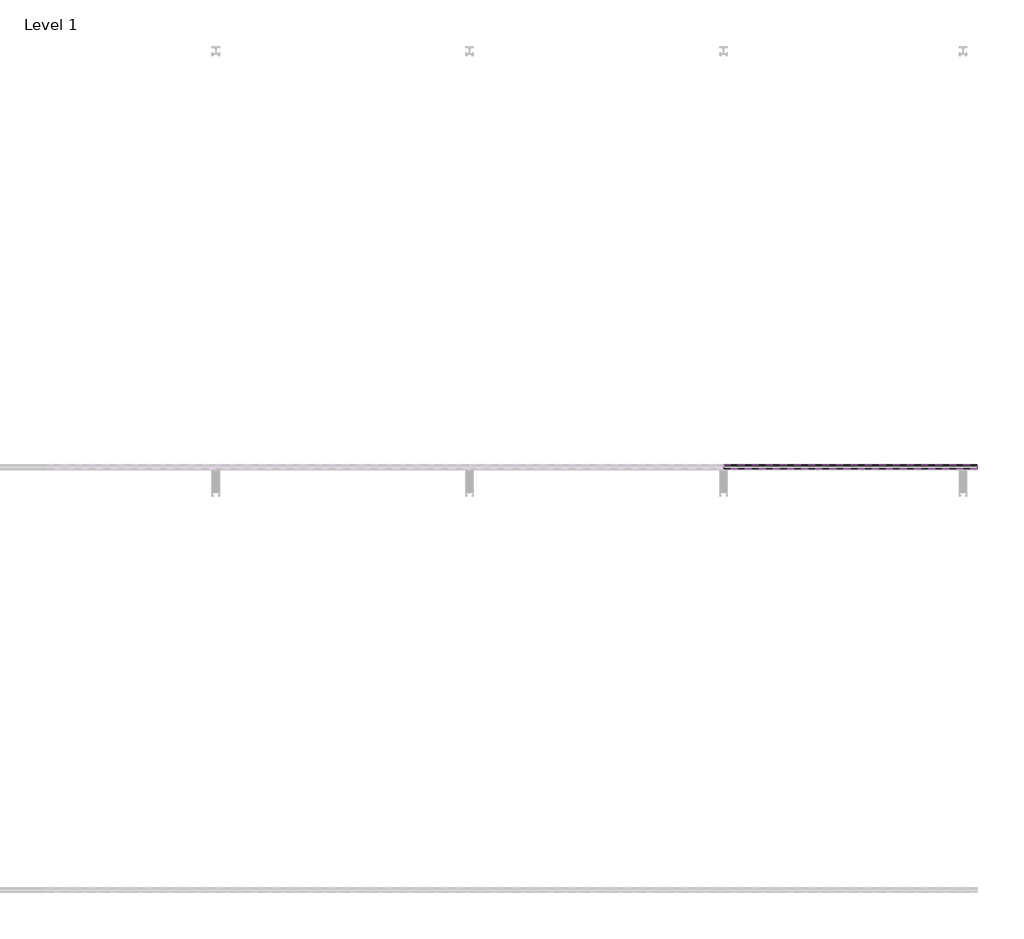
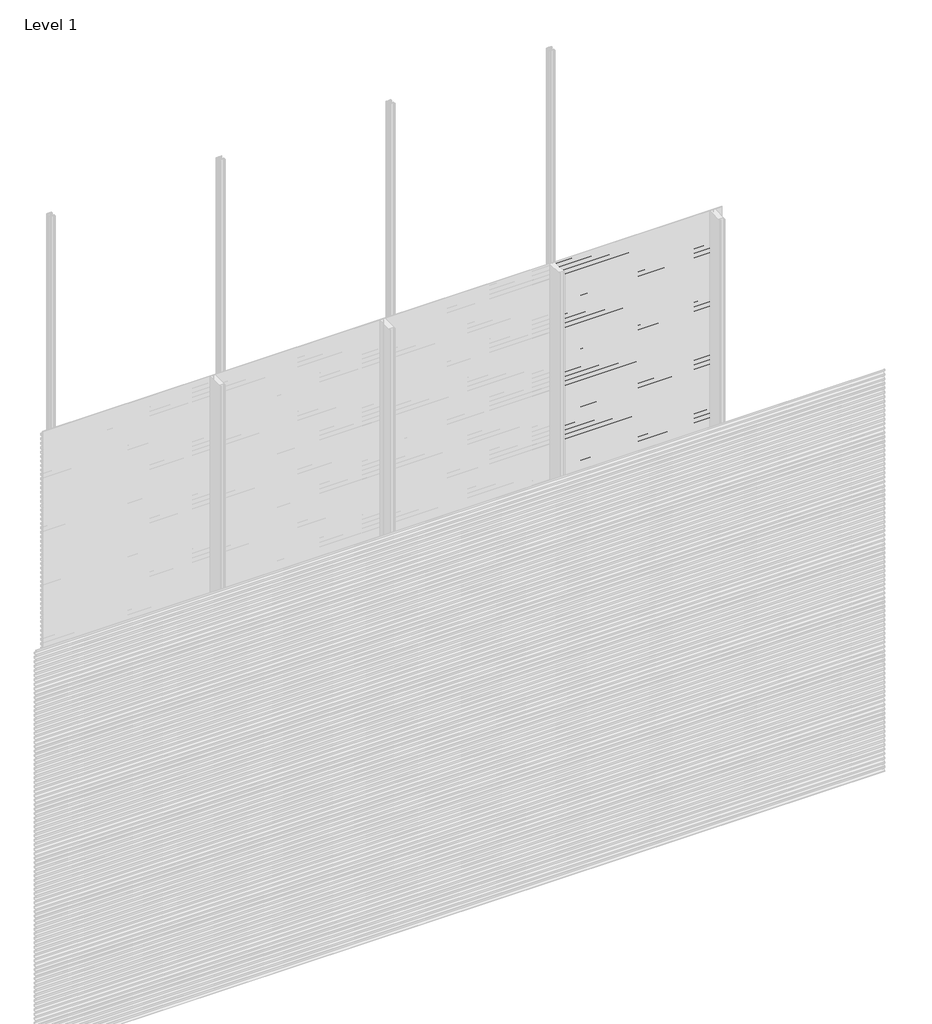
# One storey, part 17 of 77: 72 proxies.
"""IFC4 building model written with IfcOpenShell, lengths in millimetres."""

from ifc_helpers import new_model, si_unit, frame, origin, place, context, project, spatial, polyline, outline, extrude, element, save

model = new_model("IFC4")

# Units and contexts
model_context = context("Model", 3, world=origin())
ifc_project = project(units=[si_unit("LENGTHUNIT", "METRE", prefix="MILLI")], contexts=[model_context])

# Site, building, storey
site = spatial("IfcSite", under=ifc_project)
building = spatial("IfcBuilding", under=site)
storey = spatial("IfcBuildingStorey", under=building, Name="Level 1", Elevation=0.0)

# Proxies
placement = place(None, origin())
element("IfcBuildingElementProxy", 1, Name="Wall Sweeps", at=placement, inside=storey, context=model_context, shape_type="SweptSolid", body=[
    extrude(outline(polyline([(-47978.6, 408.4359887), (-47998.0, 419.6366691), (-47998.0, 432.9), (-47997.0, 432.9), (-47997.0, 420.2191057), (-47977.6, 409.0185105), (-47977.6, 395.4185105), (-47978.6, 396.9953129), (-47978.6, 402.8032062), (-47995.9773817, 394.7), (-47996.4, 395.6063078), (-47978.6, 403.9065841), (-47978.6, 408.4359887)])), frame((3600.0, 0.0, 0.0), z_axis=(1.0, 0.0, 0.0), x_axis=(0.0, 1.0, 0.0)), (0.0, 0.0, 1.0), 1200.0),
])
element("IfcBuildingElementProxy", 2, Name="Wall Sweeps", at=placement, inside=storey, context=model_context, shape_type="SweptSolid", body=[
    extrude(outline(polyline([(-47978.6, 375.1359887), (-47998.0, 386.3366691), (-47998.0, 399.6), (-47997.0, 399.6), (-47997.0, 386.9191057), (-47977.6, 375.7185105), (-47977.6, 362.1185105), (-47978.6, 363.6953129), (-47978.6, 369.5032062), (-47995.9773817, 361.4), (-47996.4, 362.3063078), (-47978.6, 370.6065841), (-47978.6, 375.1359887)])), frame((3600.0, 0.0, 0.0), z_axis=(1.0, 0.0, 0.0), x_axis=(0.0, 1.0, 0.0)), (0.0, 0.0, 1.0), 1200.0),
])
element("IfcBuildingElementProxy", 3, Name="Wall Sweeps", at=placement, inside=storey, context=model_context, shape_type="SweptSolid", body=[
    extrude(outline(polyline([(-47978.6, 341.8359887), (-47998.0, 353.0366691), (-47998.0, 366.3), (-47997.0, 366.3), (-47997.0, 353.6191057), (-47977.6, 342.4185105), (-47977.6, 328.8185105), (-47978.6, 330.3953129), (-47978.6, 336.2032062), (-47995.9773817, 328.1), (-47996.4, 329.0063078), (-47978.6, 337.3065841), (-47978.6, 341.8359887)])), frame((3600.0, 0.0, 0.0), z_axis=(1.0, 0.0, 0.0), x_axis=(0.0, 1.0, 0.0)), (0.0, 0.0, 1.0), 1200.0),
])
element("IfcBuildingElementProxy", 4, Name="Wall Sweeps", at=placement, inside=storey, context=model_context, shape_type="SweptSolid", body=[
    extrude(outline(polyline([(-47978.6, 308.5359887), (-47998.0, 319.7366691), (-47998.0, 333.0), (-47997.0, 333.0), (-47997.0, 320.3191057), (-47977.6, 309.1185105), (-47977.6, 295.5185105), (-47978.6, 297.0953129), (-47978.6, 302.9032062), (-47995.9773817, 294.8), (-47996.4, 295.7063078), (-47978.6, 304.0065841), (-47978.6, 308.5359887)])), frame((3600.0, 0.0, 0.0), z_axis=(1.0, 0.0, 0.0), x_axis=(0.0, 1.0, 0.0)), (0.0, 0.0, 1.0), 1200.0),
])
element("IfcBuildingElementProxy", 5, Name="Wall Sweeps", at=placement, inside=storey, context=model_context, shape_type="SweptSolid", body=[
    extrude(outline(polyline([(-47978.6, 275.2359887), (-47998.0, 286.4366691), (-47998.0, 299.7), (-47997.0, 299.7), (-47997.0, 287.0191057), (-47977.6, 275.8185105), (-47977.6, 262.2185105), (-47978.6, 263.7953129), (-47978.6, 269.6032062), (-47995.9773817, 261.5), (-47996.4, 262.4063078), (-47978.6, 270.7065841), (-47978.6, 275.2359887)])), frame((3600.0, 0.0, 0.0), z_axis=(1.0, 0.0, 0.0), x_axis=(0.0, 1.0, 0.0)), (0.0, 0.0, 1.0), 1200.0),
])
element("IfcBuildingElementProxy", 6, Name="Wall Sweeps", at=placement, inside=storey, context=model_context, shape_type="SweptSolid", body=[
    extrude(outline(polyline([(-47978.6, 241.9359887), (-47998.0, 253.1366691), (-47998.0, 266.4), (-47997.0, 266.4), (-47997.0, 253.7191057), (-47977.6, 242.5185105), (-47977.6, 228.9185105), (-47978.6, 230.4953129), (-47978.6, 236.3032062), (-47995.9773817, 228.2), (-47996.4, 229.1063078), (-47978.6, 237.4065841), (-47978.6, 241.9359887)])), frame((3600.0, 0.0, 0.0), z_axis=(1.0, 0.0, 0.0), x_axis=(0.0, 1.0, 0.0)), (0.0, 0.0, 1.0), 1200.0),
])
element("IfcBuildingElementProxy", 7, Name="Wall Sweeps", at=placement, inside=storey, context=model_context, shape_type="SweptSolid", body=[
    extrude(outline(polyline([(-47978.6, 208.6359887), (-47998.0, 219.8366691), (-47998.0, 233.1), (-47997.0, 233.1), (-47997.0, 220.4191057), (-47977.6, 209.2185105), (-47977.6, 195.6185105), (-47978.6, 197.1953129), (-47978.6, 203.0032062), (-47995.9773817, 194.9), (-47996.4, 195.8063078), (-47978.6, 204.1065841), (-47978.6, 208.6359887)])), frame((3600.0, 0.0, 0.0), z_axis=(1.0, 0.0, 0.0), x_axis=(0.0, 1.0, 0.0)), (0.0, 0.0, 1.0), 1200.0),
])
element("IfcBuildingElementProxy", 8, Name="Wall Sweeps", at=placement, inside=storey, context=model_context, shape_type="SweptSolid", body=[
    extrude(outline(polyline([(-47978.6, 175.3359887), (-47998.0, 186.5366691), (-47998.0, 199.8), (-47997.0, 199.8), (-47997.0, 187.1191057), (-47977.6, 175.9185105), (-47977.6, 162.3185105), (-47978.6, 163.8953129), (-47978.6, 169.7032062), (-47995.9773817, 161.6), (-47996.4, 162.5063078), (-47978.6, 170.8065841), (-47978.6, 175.3359887)])), frame((3600.0, 0.0, 0.0), z_axis=(1.0, 0.0, 0.0), x_axis=(0.0, 1.0, 0.0)), (0.0, 0.0, 1.0), 1200.0),
])
element("IfcBuildingElementProxy", 9, Name="Wall Sweeps", at=placement, inside=storey, context=model_context, shape_type="SweptSolid", body=[
    extrude(outline(polyline([(-47978.6, 142.0359887), (-47998.0, 153.2366691), (-47998.0, 166.5), (-47997.0, 166.5), (-47997.0, 153.8191057), (-47977.6, 142.6185105), (-47977.6, 129.0185105), (-47978.6, 130.5953129), (-47978.6, 136.4032062), (-47995.9773817, 128.3), (-47996.4, 129.2063078), (-47978.6, 137.5065841), (-47978.6, 142.0359887)])), frame((3600.0, 0.0, 0.0), z_axis=(1.0, 0.0, 0.0), x_axis=(0.0, 1.0, 0.0)), (0.0, 0.0, 1.0), 1200.0),
])
element("IfcBuildingElementProxy", 10, Name="Wall Sweeps", at=placement, inside=storey, context=model_context, shape_type="SweptSolid", body=[
    extrude(outline(polyline([(-47978.6, 108.7359887), (-47998.0, 119.9366691), (-47998.0, 133.2), (-47997.0, 133.2), (-47997.0, 120.5191057), (-47977.6, 109.3185105), (-47977.6, 95.7185105), (-47978.6, 97.2953129), (-47978.6, 103.1032062), (-47995.9773817, 95.0), (-47996.4, 95.9063078), (-47978.6, 104.2065841), (-47978.6, 108.7359887)])), frame((3600.0, 0.0, 0.0), z_axis=(1.0, 0.0, 0.0), x_axis=(0.0, 1.0, 0.0)), (0.0, 0.0, 1.0), 1200.0),
])
element("IfcBuildingElementProxy", 11, Name="Wall Sweeps", at=placement, inside=storey, context=model_context, shape_type="SweptSolid", body=[
    extrude(outline(polyline([(-47978.6, 75.4359887), (-47998.0, 86.6366691), (-47998.0, 99.9), (-47997.0, 99.9), (-47997.0, 87.2191057), (-47977.6, 76.0185105), (-47977.6, 62.4185105), (-47978.6, 63.9953129), (-47978.6, 69.8032062), (-47995.9773817, 61.7), (-47996.4, 62.6063078), (-47978.6, 70.9065841), (-47978.6, 75.4359887)])), frame((3600.0, 0.0, 0.0), z_axis=(1.0, 0.0, 0.0), x_axis=(0.0, 1.0, 0.0)), (0.0, 0.0, 1.0), 1200.0),
])
element("IfcBuildingElementProxy", 12, Name="Wall Sweeps", at=placement, inside=storey, context=model_context, shape_type="SweptSolid", body=[
    extrude(outline(polyline([(-47978.6, 42.1359887), (-47998.0, 53.3366691), (-47998.0, 66.6), (-47997.0, 66.6), (-47997.0, 53.9191057), (-47977.6, 42.7185105), (-47977.6, 29.1185105), (-47978.6, 30.6953129), (-47978.6, 36.5032062), (-47995.9773817, 28.4), (-47996.4, 29.3063078), (-47978.6, 37.6065841), (-47978.6, 42.1359887)])), frame((3600.0, 0.0, 0.0), z_axis=(1.0, 0.0, 0.0), x_axis=(0.0, 1.0, 0.0)), (0.0, 0.0, 1.0), 1200.0),
])
element("IfcBuildingElementProxy", 13, Name="Wall Sweeps", at=placement, inside=storey, context=model_context, shape_type="SweptSolid", body=[
    extrude(outline(polyline([(-47978.6, 8.8359887), (-47998.0, 20.0366691), (-47998.0, 33.3), (-47997.0, 33.3), (-47997.0, 20.6191057), (-47977.6, 9.4185105), (-47977.6, -4.1814895), (-47978.6, -2.6046871), (-47978.6, 3.2032062), (-47995.9773817, -4.9), (-47996.4, -3.9936922), (-47978.6, 4.3065841), (-47978.6, 8.8359887)])), frame((3600.0, 0.0, 0.0), z_axis=(1.0, 0.0, 0.0), x_axis=(0.0, 1.0, 0.0)), (0.0, 0.0, 1.0), 1200.0),
])
element("IfcBuildingElementProxy", 14, Name="Wall Sweeps", at=placement, inside=storey, context=model_context, shape_type="SweptSolid", body=[
    extrude(outline(polyline([(-47978.6, 2972.5359887), (-47998.0, 2983.7366691), (-47998.0, 2997.0), (-47997.0, 2997.0), (-47997.0, 2984.3191057), (-47977.6, 2973.1185105), (-47977.6, 2959.5185105), (-47978.6, 2961.0953129), (-47978.6, 2966.9032062), (-47995.9773817, 2958.8), (-47996.4, 2959.7063078), (-47978.6, 2968.0065841), (-47978.6, 2972.5359887)])), frame((4800.0, 0.0, 0.0), z_axis=(1.0, 0.0, 0.0), x_axis=(0.0, 1.0, 0.0)), (0.0, 0.0, 1.0), 1200.0),
])
element("IfcBuildingElementProxy", 15, Name="Wall Sweeps", at=placement, inside=storey, context=model_context, shape_type="SweptSolid", body=[
    extrude(outline(polyline([(-47978.6, 2939.2359887), (-47998.0, 2950.4366691), (-47998.0, 2963.7), (-47997.0, 2963.7), (-47997.0, 2951.0191057), (-47977.6, 2939.8185105), (-47977.6, 2926.2185105), (-47978.6, 2927.7953129), (-47978.6, 2933.6032062), (-47995.9773817, 2925.5), (-47996.4, 2926.4063078), (-47978.6, 2934.7065841), (-47978.6, 2939.2359887)])), frame((4800.0, 0.0, 0.0), z_axis=(1.0, 0.0, 0.0), x_axis=(0.0, 1.0, 0.0)), (0.0, 0.0, 1.0), 1200.0),
])
element("IfcBuildingElementProxy", 16, Name="Wall Sweeps", at=placement, inside=storey, context=model_context, shape_type="SweptSolid", body=[
    extrude(outline(polyline([(-47978.6, 2905.9359887), (-47998.0, 2917.1366691), (-47998.0, 2930.4), (-47997.0, 2930.4), (-47997.0, 2917.7191057), (-47977.6, 2906.5185105), (-47977.6, 2892.9185105), (-47978.6, 2894.4953129), (-47978.6, 2900.3032062), (-47995.9773817, 2892.2), (-47996.4, 2893.1063078), (-47978.6, 2901.4065841), (-47978.6, 2905.9359887)])), frame((4800.0, 0.0, 0.0), z_axis=(1.0, 0.0, 0.0), x_axis=(0.0, 1.0, 0.0)), (0.0, 0.0, 1.0), 1200.0),
])
element("IfcBuildingElementProxy", 17, Name="Wall Sweeps", at=placement, inside=storey, context=model_context, shape_type="SweptSolid", body=[
    extrude(outline(polyline([(-47978.6, 2872.6359887), (-47998.0, 2883.8366691), (-47998.0, 2897.1), (-47997.0, 2897.1), (-47997.0, 2884.4191057), (-47977.6, 2873.2185105), (-47977.6, 2859.6185105), (-47978.6, 2861.1953129), (-47978.6, 2867.0032062), (-47995.9773817, 2858.9), (-47996.4, 2859.8063078), (-47978.6, 2868.1065841), (-47978.6, 2872.6359887)])), frame((4800.0, 0.0, 0.0), z_axis=(1.0, 0.0, 0.0), x_axis=(0.0, 1.0, 0.0)), (0.0, 0.0, 1.0), 1200.0),
])
element("IfcBuildingElementProxy", 18, Name="Wall Sweeps", at=placement, inside=storey, context=model_context, shape_type="SweptSolid", body=[
    extrude(outline(polyline([(-47978.6, 2839.3359887), (-47998.0, 2850.5366691), (-47998.0, 2863.8), (-47997.0, 2863.8), (-47997.0, 2851.1191057), (-47977.6, 2839.9185105), (-47977.6, 2826.3185105), (-47978.6, 2827.8953129), (-47978.6, 2833.7032062), (-47995.9773817, 2825.6), (-47996.4, 2826.5063078), (-47978.6, 2834.8065841), (-47978.6, 2839.3359887)])), frame((4800.0, 0.0, 0.0), z_axis=(1.0, 0.0, 0.0), x_axis=(0.0, 1.0, 0.0)), (0.0, 0.0, 1.0), 1200.0),
])
element("IfcBuildingElementProxy", 19, Name="Wall Sweeps", at=placement, inside=storey, context=model_context, shape_type="SweptSolid", body=[
    extrude(outline(polyline([(-47978.6, 2806.0359887), (-47998.0, 2817.2366691), (-47998.0, 2830.5), (-47997.0, 2830.5), (-47997.0, 2817.8191057), (-47977.6, 2806.6185105), (-47977.6, 2793.0185105), (-47978.6, 2794.5953129), (-47978.6, 2800.4032062), (-47995.9773817, 2792.3), (-47996.4, 2793.2063078), (-47978.6, 2801.5065841), (-47978.6, 2806.0359887)])), frame((4800.0, 0.0, 0.0), z_axis=(1.0, 0.0, 0.0), x_axis=(0.0, 1.0, 0.0)), (0.0, 0.0, 1.0), 1200.0),
])
element("IfcBuildingElementProxy", 20, Name="Wall Sweeps", at=placement, inside=storey, context=model_context, shape_type="SweptSolid", body=[
    extrude(outline(polyline([(-47978.6, 2772.7359887), (-47998.0, 2783.9366691), (-47998.0, 2797.2), (-47997.0, 2797.2), (-47997.0, 2784.5191057), (-47977.6, 2773.3185105), (-47977.6, 2759.7185105), (-47978.6, 2761.2953129), (-47978.6, 2767.1032062), (-47995.9773817, 2759.0), (-47996.4, 2759.9063078), (-47978.6, 2768.2065841), (-47978.6, 2772.7359887)])), frame((4800.0, 0.0, 0.0), z_axis=(1.0, 0.0, 0.0), x_axis=(0.0, 1.0, 0.0)), (0.0, 0.0, 1.0), 1200.0),
])
element("IfcBuildingElementProxy", 21, Name="Wall Sweeps", at=placement, inside=storey, context=model_context, shape_type="SweptSolid", body=[
    extrude(outline(polyline([(-47978.6, 2739.4359887), (-47998.0, 2750.6366691), (-47998.0, 2763.9), (-47997.0, 2763.9), (-47997.0, 2751.2191057), (-47977.6, 2740.0185105), (-47977.6, 2726.4185105), (-47978.6, 2727.9953129), (-47978.6, 2733.8032062), (-47995.9773817, 2725.7), (-47996.4, 2726.6063078), (-47978.6, 2734.9065841), (-47978.6, 2739.4359887)])), frame((4800.0, 0.0, 0.0), z_axis=(1.0, 0.0, 0.0), x_axis=(0.0, 1.0, 0.0)), (0.0, 0.0, 1.0), 1200.0),
])
element("IfcBuildingElementProxy", 22, Name="Wall Sweeps", at=placement, inside=storey, context=model_context, shape_type="SweptSolid", body=[
    extrude(outline(polyline([(-47978.6, 2706.1359887), (-47998.0, 2717.3366691), (-47998.0, 2730.6), (-47997.0, 2730.6), (-47997.0, 2717.9191057), (-47977.6, 2706.7185105), (-47977.6, 2693.1185105), (-47978.6, 2694.6953129), (-47978.6, 2700.5032062), (-47995.9773817, 2692.4), (-47996.4, 2693.3063078), (-47978.6, 2701.6065841), (-47978.6, 2706.1359887)])), frame((4800.0, 0.0, 0.0), z_axis=(1.0, 0.0, 0.0), x_axis=(0.0, 1.0, 0.0)), (0.0, 0.0, 1.0), 1200.0),
])
element("IfcBuildingElementProxy", 23, Name="Wall Sweeps", at=placement, inside=storey, context=model_context, shape_type="SweptSolid", body=[
    extrude(outline(polyline([(-47978.6, 2672.8359887), (-47998.0, 2684.0366691), (-47998.0, 2697.3), (-47997.0, 2697.3), (-47997.0, 2684.6191057), (-47977.6, 2673.4185105), (-47977.6, 2659.8185105), (-47978.6, 2661.3953129), (-47978.6, 2667.2032062), (-47995.9773817, 2659.1), (-47996.4, 2660.0063078), (-47978.6, 2668.3065841), (-47978.6, 2672.8359887)])), frame((4800.0, 0.0, 0.0), z_axis=(1.0, 0.0, 0.0), x_axis=(0.0, 1.0, 0.0)), (0.0, 0.0, 1.0), 1200.0),
])
element("IfcBuildingElementProxy", 24, Name="Wall Sweeps", at=placement, inside=storey, context=model_context, shape_type="SweptSolid", body=[
    extrude(outline(polyline([(-47978.6, 2639.5359887), (-47998.0, 2650.7366691), (-47998.0, 2664.0), (-47997.0, 2664.0), (-47997.0, 2651.3191057), (-47977.6, 2640.1185105), (-47977.6, 2626.5185105), (-47978.6, 2628.0953129), (-47978.6, 2633.9032062), (-47995.9773817, 2625.8), (-47996.4, 2626.7063078), (-47978.6, 2635.0065841), (-47978.6, 2639.5359887)])), frame((4800.0, 0.0, 0.0), z_axis=(1.0, 0.0, 0.0), x_axis=(0.0, 1.0, 0.0)), (0.0, 0.0, 1.0), 1200.0),
])
element("IfcBuildingElementProxy", 25, Name="Wall Sweeps", at=placement, inside=storey, context=model_context, shape_type="SweptSolid", body=[
    extrude(outline(polyline([(-47978.6, 2606.2359887), (-47998.0, 2617.4366691), (-47998.0, 2630.7), (-47997.0, 2630.7), (-47997.0, 2618.0191057), (-47977.6, 2606.8185105), (-47977.6, 2593.2185105), (-47978.6, 2594.7953129), (-47978.6, 2600.6032062), (-47995.9773817, 2592.5), (-47996.4, 2593.4063078), (-47978.6, 2601.7065841), (-47978.6, 2606.2359887)])), frame((4800.0, 0.0, 0.0), z_axis=(1.0, 0.0, 0.0), x_axis=(0.0, 1.0, 0.0)), (0.0, 0.0, 1.0), 1200.0),
])
element("IfcBuildingElementProxy", 26, Name="Wall Sweeps", at=placement, inside=storey, context=model_context, shape_type="SweptSolid", body=[
    extrude(outline(polyline([(-47978.6, 2572.9359887), (-47998.0, 2584.1366691), (-47998.0, 2597.4), (-47997.0, 2597.4), (-47997.0, 2584.7191057), (-47977.6, 2573.5185105), (-47977.6, 2559.9185105), (-47978.6, 2561.4953129), (-47978.6, 2567.3032062), (-47995.9773817, 2559.2), (-47996.4, 2560.1063078), (-47978.6, 2568.4065841), (-47978.6, 2572.9359887)])), frame((4800.0, 0.0, 0.0), z_axis=(1.0, 0.0, 0.0), x_axis=(0.0, 1.0, 0.0)), (0.0, 0.0, 1.0), 1200.0),
])
element("IfcBuildingElementProxy", 27, Name="Wall Sweeps", at=placement, inside=storey, context=model_context, shape_type="SweptSolid", body=[
    extrude(outline(polyline([(-47978.6, 2539.6359887), (-47998.0, 2550.8366691), (-47998.0, 2564.1), (-47997.0, 2564.1), (-47997.0, 2551.4191057), (-47977.6, 2540.2185105), (-47977.6, 2526.6185105), (-47978.6, 2528.1953129), (-47978.6, 2534.0032062), (-47995.9773817, 2525.9), (-47996.4, 2526.8063078), (-47978.6, 2535.1065841), (-47978.6, 2539.6359887)])), frame((4800.0, 0.0, 0.0), z_axis=(1.0, 0.0, 0.0), x_axis=(0.0, 1.0, 0.0)), (0.0, 0.0, 1.0), 1200.0),
])
element("IfcBuildingElementProxy", 28, Name="Wall Sweeps", at=placement, inside=storey, context=model_context, shape_type="SweptSolid", body=[
    extrude(outline(polyline([(-47978.6, 2506.3359887), (-47998.0, 2517.5366691), (-47998.0, 2530.8), (-47997.0, 2530.8), (-47997.0, 2518.1191057), (-47977.6, 2506.9185105), (-47977.6, 2493.3185105), (-47978.6, 2494.8953129), (-47978.6, 2500.7032062), (-47995.9773817, 2492.6), (-47996.4, 2493.5063078), (-47978.6, 2501.8065841), (-47978.6, 2506.3359887)])), frame((4800.0, 0.0, 0.0), z_axis=(1.0, 0.0, 0.0), x_axis=(0.0, 1.0, 0.0)), (0.0, 0.0, 1.0), 1200.0),
])
element("IfcBuildingElementProxy", 29, Name="Wall Sweeps", at=placement, inside=storey, context=model_context, shape_type="SweptSolid", body=[
    extrude(outline(polyline([(-47978.6, 2473.0359887), (-47998.0, 2484.2366691), (-47998.0, 2497.5), (-47997.0, 2497.5), (-47997.0, 2484.8191057), (-47977.6, 2473.6185105), (-47977.6, 2460.0185105), (-47978.6, 2461.5953129), (-47978.6, 2467.4032062), (-47995.9773817, 2459.3), (-47996.4, 2460.2063078), (-47978.6, 2468.5065841), (-47978.6, 2473.0359887)])), frame((4800.0, 0.0, 0.0), z_axis=(1.0, 0.0, 0.0), x_axis=(0.0, 1.0, 0.0)), (0.0, 0.0, 1.0), 1200.0),
])
element("IfcBuildingElementProxy", 30, Name="Wall Sweeps", at=placement, inside=storey, context=model_context, shape_type="SweptSolid", body=[
    extrude(outline(polyline([(-47978.6, 2439.7359887), (-47998.0, 2450.9366691), (-47998.0, 2464.2), (-47997.0, 2464.2), (-47997.0, 2451.5191057), (-47977.6, 2440.3185105), (-47977.6, 2426.7185105), (-47978.6, 2428.2953129), (-47978.6, 2434.1032062), (-47995.9773817, 2426.0), (-47996.4, 2426.9063078), (-47978.6, 2435.2065841), (-47978.6, 2439.7359887)])), frame((4800.0, 0.0, 0.0), z_axis=(1.0, 0.0, 0.0), x_axis=(0.0, 1.0, 0.0)), (0.0, 0.0, 1.0), 1200.0),
])
element("IfcBuildingElementProxy", 31, Name="Wall Sweeps", at=placement, inside=storey, context=model_context, shape_type="SweptSolid", body=[
    extrude(outline(polyline([(-47978.6, 2406.4359887), (-47998.0, 2417.6366691), (-47998.0, 2430.9), (-47997.0, 2430.9), (-47997.0, 2418.2191057), (-47977.6, 2407.0185105), (-47977.6, 2393.4185105), (-47978.6, 2394.9953129), (-47978.6, 2400.8032062), (-47995.9773817, 2392.7), (-47996.4, 2393.6063078), (-47978.6, 2401.9065841), (-47978.6, 2406.4359887)])), frame((4800.0, 0.0, 0.0), z_axis=(1.0, 0.0, 0.0), x_axis=(0.0, 1.0, 0.0)), (0.0, 0.0, 1.0), 1200.0),
])
element("IfcBuildingElementProxy", 32, Name="Wall Sweeps", at=placement, inside=storey, context=model_context, shape_type="SweptSolid", body=[
    extrude(outline(polyline([(-47978.6, 2373.1359887), (-47998.0, 2384.3366691), (-47998.0, 2397.6), (-47997.0, 2397.6), (-47997.0, 2384.9191057), (-47977.6, 2373.7185105), (-47977.6, 2360.1185105), (-47978.6, 2361.6953129), (-47978.6, 2367.5032062), (-47995.9773817, 2359.4), (-47996.4, 2360.3063078), (-47978.6, 2368.6065841), (-47978.6, 2373.1359887)])), frame((4800.0, 0.0, 0.0), z_axis=(1.0, 0.0, 0.0), x_axis=(0.0, 1.0, 0.0)), (0.0, 0.0, 1.0), 1200.0),
])
element("IfcBuildingElementProxy", 33, Name="Wall Sweeps", at=placement, inside=storey, context=model_context, shape_type="SweptSolid", body=[
    extrude(outline(polyline([(-47978.6, 2339.8359887), (-47998.0, 2351.0366691), (-47998.0, 2364.3), (-47997.0, 2364.3), (-47997.0, 2351.6191057), (-47977.6, 2340.4185105), (-47977.6, 2326.8185105), (-47978.6, 2328.3953129), (-47978.6, 2334.2032062), (-47995.9773817, 2326.1), (-47996.4, 2327.0063078), (-47978.6, 2335.3065841), (-47978.6, 2339.8359887)])), frame((4800.0, 0.0, 0.0), z_axis=(1.0, 0.0, 0.0), x_axis=(0.0, 1.0, 0.0)), (0.0, 0.0, 1.0), 1200.0),
])
element("IfcBuildingElementProxy", 34, Name="Wall Sweeps", at=placement, inside=storey, context=model_context, shape_type="SweptSolid", body=[
    extrude(outline(polyline([(-47978.6, 2306.5359887), (-47998.0, 2317.7366691), (-47998.0, 2331.0), (-47997.0, 2331.0), (-47997.0, 2318.3191057), (-47977.6, 2307.1185105), (-47977.6, 2293.5185105), (-47978.6, 2295.0953129), (-47978.6, 2300.9032062), (-47995.9773817, 2292.8), (-47996.4, 2293.7063078), (-47978.6, 2302.0065841), (-47978.6, 2306.5359887)])), frame((4800.0, 0.0, 0.0), z_axis=(1.0, 0.0, 0.0), x_axis=(0.0, 1.0, 0.0)), (0.0, 0.0, 1.0), 1200.0),
])
element("IfcBuildingElementProxy", 35, Name="Wall Sweeps", at=placement, inside=storey, context=model_context, shape_type="SweptSolid", body=[
    extrude(outline(polyline([(-47978.6, 2273.2359887), (-47998.0, 2284.4366691), (-47998.0, 2297.7), (-47997.0, 2297.7), (-47997.0, 2285.0191057), (-47977.6, 2273.8185105), (-47977.6, 2260.2185105), (-47978.6, 2261.7953129), (-47978.6, 2267.6032062), (-47995.9773817, 2259.5), (-47996.4, 2260.4063078), (-47978.6, 2268.7065841), (-47978.6, 2273.2359887)])), frame((4800.0, 0.0, 0.0), z_axis=(1.0, 0.0, 0.0), x_axis=(0.0, 1.0, 0.0)), (0.0, 0.0, 1.0), 1200.0),
])
element("IfcBuildingElementProxy", 36, Name="Wall Sweeps", at=placement, inside=storey, context=model_context, shape_type="SweptSolid", body=[
    extrude(outline(polyline([(-47978.6, 2239.9359887), (-47998.0, 2251.1366691), (-47998.0, 2264.4), (-47997.0, 2264.4), (-47997.0, 2251.7191057), (-47977.6, 2240.5185105), (-47977.6, 2226.9185105), (-47978.6, 2228.4953129), (-47978.6, 2234.3032062), (-47995.9773817, 2226.2), (-47996.4, 2227.1063078), (-47978.6, 2235.4065841), (-47978.6, 2239.9359887)])), frame((4800.0, 0.0, 0.0), z_axis=(1.0, 0.0, 0.0), x_axis=(0.0, 1.0, 0.0)), (0.0, 0.0, 1.0), 1200.0),
])
element("IfcBuildingElementProxy", 37, Name="Wall Sweeps", at=placement, inside=storey, context=model_context, shape_type="SweptSolid", body=[
    extrude(outline(polyline([(-47978.6, 2206.6359887), (-47998.0, 2217.8366691), (-47998.0, 2231.1), (-47997.0, 2231.1), (-47997.0, 2218.4191057), (-47977.6, 2207.2185105), (-47977.6, 2193.6185105), (-47978.6, 2195.1953129), (-47978.6, 2201.0032062), (-47995.9773817, 2192.9), (-47996.4, 2193.8063078), (-47978.6, 2202.1065841), (-47978.6, 2206.6359887)])), frame((4800.0, 0.0, 0.0), z_axis=(1.0, 0.0, 0.0), x_axis=(0.0, 1.0, 0.0)), (0.0, 0.0, 1.0), 1200.0),
])
element("IfcBuildingElementProxy", 38, Name="Wall Sweeps", at=placement, inside=storey, context=model_context, shape_type="SweptSolid", body=[
    extrude(outline(polyline([(-47978.6, 2173.3359887), (-47998.0, 2184.5366691), (-47998.0, 2197.8), (-47997.0, 2197.8), (-47997.0, 2185.1191057), (-47977.6, 2173.9185105), (-47977.6, 2160.3185105), (-47978.6, 2161.8953129), (-47978.6, 2167.7032062), (-47995.9773817, 2159.6), (-47996.4, 2160.5063078), (-47978.6, 2168.8065841), (-47978.6, 2173.3359887)])), frame((4800.0, 0.0, 0.0), z_axis=(1.0, 0.0, 0.0), x_axis=(0.0, 1.0, 0.0)), (0.0, 0.0, 1.0), 1200.0),
])
element("IfcBuildingElementProxy", 39, Name="Wall Sweeps", at=placement, inside=storey, context=model_context, shape_type="SweptSolid", body=[
    extrude(outline(polyline([(-47978.6, 2140.0359887), (-47998.0, 2151.2366691), (-47998.0, 2164.5), (-47997.0, 2164.5), (-47997.0, 2151.8191057), (-47977.6, 2140.6185105), (-47977.6, 2127.0185105), (-47978.6, 2128.5953129), (-47978.6, 2134.4032062), (-47995.9773817, 2126.3), (-47996.4, 2127.2063078), (-47978.6, 2135.5065841), (-47978.6, 2140.0359887)])), frame((4800.0, 0.0, 0.0), z_axis=(1.0, 0.0, 0.0), x_axis=(0.0, 1.0, 0.0)), (0.0, 0.0, 1.0), 1200.0),
])
element("IfcBuildingElementProxy", 40, Name="Wall Sweeps", at=placement, inside=storey, context=model_context, shape_type="SweptSolid", body=[
    extrude(outline(polyline([(-47978.6, 2106.7359887), (-47998.0, 2117.9366691), (-47998.0, 2131.2), (-47997.0, 2131.2), (-47997.0, 2118.5191057), (-47977.6, 2107.3185105), (-47977.6, 2093.7185105), (-47978.6, 2095.2953129), (-47978.6, 2101.1032062), (-47995.9773817, 2093.0), (-47996.4, 2093.9063078), (-47978.6, 2102.2065841), (-47978.6, 2106.7359887)])), frame((4800.0, 0.0, 0.0), z_axis=(1.0, 0.0, 0.0), x_axis=(0.0, 1.0, 0.0)), (0.0, 0.0, 1.0), 1200.0),
])
element("IfcBuildingElementProxy", 41, Name="Wall Sweeps", at=placement, inside=storey, context=model_context, shape_type="SweptSolid", body=[
    extrude(outline(polyline([(-47978.6, 2073.4359887), (-47998.0, 2084.6366691), (-47998.0, 2097.9), (-47997.0, 2097.9), (-47997.0, 2085.2191057), (-47977.6, 2074.0185105), (-47977.6, 2060.4185105), (-47978.6, 2061.9953129), (-47978.6, 2067.8032062), (-47995.9773817, 2059.7), (-47996.4, 2060.6063078), (-47978.6, 2068.9065841), (-47978.6, 2073.4359887)])), frame((4800.0, 0.0, 0.0), z_axis=(1.0, 0.0, 0.0), x_axis=(0.0, 1.0, 0.0)), (0.0, 0.0, 1.0), 1200.0),
])
element("IfcBuildingElementProxy", 42, Name="Wall Sweeps", at=placement, inside=storey, context=model_context, shape_type="SweptSolid", body=[
    extrude(outline(polyline([(-47978.6, 2040.1359887), (-47998.0, 2051.3366691), (-47998.0, 2064.6), (-47997.0, 2064.6), (-47997.0, 2051.9191057), (-47977.6, 2040.7185105), (-47977.6, 2027.1185105), (-47978.6, 2028.6953129), (-47978.6, 2034.5032062), (-47995.9773817, 2026.4), (-47996.4, 2027.3063078), (-47978.6, 2035.6065841), (-47978.6, 2040.1359887)])), frame((4800.0, 0.0, 0.0), z_axis=(1.0, 0.0, 0.0), x_axis=(0.0, 1.0, 0.0)), (0.0, 0.0, 1.0), 1200.0),
])
element("IfcBuildingElementProxy", 43, Name="Wall Sweeps", at=placement, inside=storey, context=model_context, shape_type="SweptSolid", body=[
    extrude(outline(polyline([(-47978.6, 2006.8359887), (-47998.0, 2018.0366691), (-47998.0, 2031.3), (-47997.0, 2031.3), (-47997.0, 2018.6191057), (-47977.6, 2007.4185105), (-47977.6, 1993.8185105), (-47978.6, 1995.3953129), (-47978.6, 2001.2032062), (-47995.9773817, 1993.1), (-47996.4, 1994.0063078), (-47978.6, 2002.3065841), (-47978.6, 2006.8359887)])), frame((4800.0, 0.0, 0.0), z_axis=(1.0, 0.0, 0.0), x_axis=(0.0, 1.0, 0.0)), (0.0, 0.0, 1.0), 1200.0),
])
element("IfcBuildingElementProxy", 44, Name="Wall Sweeps", at=placement, inside=storey, context=model_context, shape_type="SweptSolid", body=[
    extrude(outline(polyline([(-47978.6, 1973.5359887), (-47998.0, 1984.7366691), (-47998.0, 1998.0), (-47997.0, 1998.0), (-47997.0, 1985.3191057), (-47977.6, 1974.1185105), (-47977.6, 1960.5185105), (-47978.6, 1962.0953129), (-47978.6, 1967.9032062), (-47995.9773817, 1959.8), (-47996.4, 1960.7063078), (-47978.6, 1969.0065841), (-47978.6, 1973.5359887)])), frame((4800.0, 0.0, 0.0), z_axis=(1.0, 0.0, 0.0), x_axis=(0.0, 1.0, 0.0)), (0.0, 0.0, 1.0), 1200.0),
])
element("IfcBuildingElementProxy", 45, Name="Wall Sweeps", at=placement, inside=storey, context=model_context, shape_type="SweptSolid", body=[
    extrude(outline(polyline([(-47978.6, 1940.2359887), (-47998.0, 1951.4366691), (-47998.0, 1964.7), (-47997.0, 1964.7), (-47997.0, 1952.0191057), (-47977.6, 1940.8185105), (-47977.6, 1927.2185105), (-47978.6, 1928.7953129), (-47978.6, 1934.6032062), (-47995.9773817, 1926.5), (-47996.4, 1927.4063078), (-47978.6, 1935.7065841), (-47978.6, 1940.2359887)])), frame((4800.0, 0.0, 0.0), z_axis=(1.0, 0.0, 0.0), x_axis=(0.0, 1.0, 0.0)), (0.0, 0.0, 1.0), 1200.0),
])
element("IfcBuildingElementProxy", 46, Name="Wall Sweeps", at=placement, inside=storey, context=model_context, shape_type="SweptSolid", body=[
    extrude(outline(polyline([(-47978.6, 1906.9359887), (-47998.0, 1918.1366691), (-47998.0, 1931.4), (-47997.0, 1931.4), (-47997.0, 1918.7191057), (-47977.6, 1907.5185105), (-47977.6, 1893.9185105), (-47978.6, 1895.4953129), (-47978.6, 1901.3032062), (-47995.9773817, 1893.2), (-47996.4, 1894.1063078), (-47978.6, 1902.4065841), (-47978.6, 1906.9359887)])), frame((4800.0, 0.0, 0.0), z_axis=(1.0, 0.0, 0.0), x_axis=(0.0, 1.0, 0.0)), (0.0, 0.0, 1.0), 1200.0),
])
element("IfcBuildingElementProxy", 47, Name="Wall Sweeps", at=placement, inside=storey, context=model_context, shape_type="SweptSolid", body=[
    extrude(outline(polyline([(-47978.6, 1873.6359887), (-47998.0, 1884.8366691), (-47998.0, 1898.1), (-47997.0, 1898.1), (-47997.0, 1885.4191057), (-47977.6, 1874.2185105), (-47977.6, 1860.6185105), (-47978.6, 1862.1953129), (-47978.6, 1868.0032062), (-47995.9773817, 1859.9), (-47996.4, 1860.8063078), (-47978.6, 1869.1065841), (-47978.6, 1873.6359887)])), frame((4800.0, 0.0, 0.0), z_axis=(1.0, 0.0, 0.0), x_axis=(0.0, 1.0, 0.0)), (0.0, 0.0, 1.0), 1200.0),
])
element("IfcBuildingElementProxy", 48, Name="Wall Sweeps", at=placement, inside=storey, context=model_context, shape_type="SweptSolid", body=[
    extrude(outline(polyline([(-47978.6, 1840.3359887), (-47998.0, 1851.5366691), (-47998.0, 1864.8), (-47997.0, 1864.8), (-47997.0, 1852.1191057), (-47977.6, 1840.9185105), (-47977.6, 1827.3185105), (-47978.6, 1828.8953129), (-47978.6, 1834.7032062), (-47995.9773817, 1826.6), (-47996.4, 1827.5063078), (-47978.6, 1835.8065841), (-47978.6, 1840.3359887)])), frame((4800.0, 0.0, 0.0), z_axis=(1.0, 0.0, 0.0), x_axis=(0.0, 1.0, 0.0)), (0.0, 0.0, 1.0), 1200.0),
])
element("IfcBuildingElementProxy", 49, Name="Wall Sweeps", at=placement, inside=storey, context=model_context, shape_type="SweptSolid", body=[
    extrude(outline(polyline([(-47978.6, 1807.0359887), (-47998.0, 1818.2366691), (-47998.0, 1831.5), (-47997.0, 1831.5), (-47997.0, 1818.8191057), (-47977.6, 1807.6185105), (-47977.6, 1794.0185105), (-47978.6, 1795.5953129), (-47978.6, 1801.4032062), (-47995.9773817, 1793.3), (-47996.4, 1794.2063078), (-47978.6, 1802.5065841), (-47978.6, 1807.0359887)])), frame((4800.0, 0.0, 0.0), z_axis=(1.0, 0.0, 0.0), x_axis=(0.0, 1.0, 0.0)), (0.0, 0.0, 1.0), 1200.0),
])
element("IfcBuildingElementProxy", 50, Name="Wall Sweeps", at=placement, inside=storey, context=model_context, shape_type="SweptSolid", body=[
    extrude(outline(polyline([(-47978.6, 1773.7359887), (-47998.0, 1784.9366691), (-47998.0, 1798.2), (-47997.0, 1798.2), (-47997.0, 1785.5191057), (-47977.6, 1774.3185105), (-47977.6, 1760.7185105), (-47978.6, 1762.2953129), (-47978.6, 1768.1032062), (-47995.9773817, 1760.0), (-47996.4, 1760.9063078), (-47978.6, 1769.2065841), (-47978.6, 1773.7359887)])), frame((4800.0, 0.0, 0.0), z_axis=(1.0, 0.0, 0.0), x_axis=(0.0, 1.0, 0.0)), (0.0, 0.0, 1.0), 1200.0),
])
element("IfcBuildingElementProxy", 51, Name="Wall Sweeps", at=placement, inside=storey, context=model_context, shape_type="SweptSolid", body=[
    extrude(outline(polyline([(-47978.6, 1740.4359887), (-47998.0, 1751.6366691), (-47998.0, 1764.9), (-47997.0, 1764.9), (-47997.0, 1752.2191057), (-47977.6, 1741.0185105), (-47977.6, 1727.4185105), (-47978.6, 1728.9953129), (-47978.6, 1734.8032062), (-47995.9773817, 1726.7), (-47996.4, 1727.6063078), (-47978.6, 1735.9065841), (-47978.6, 1740.4359887)])), frame((4800.0, 0.0, 0.0), z_axis=(1.0, 0.0, 0.0), x_axis=(0.0, 1.0, 0.0)), (0.0, 0.0, 1.0), 1200.0),
])
element("IfcBuildingElementProxy", 52, Name="Wall Sweeps", at=placement, inside=storey, context=model_context, shape_type="SweptSolid", body=[
    extrude(outline(polyline([(-47978.6, 1707.1359887), (-47998.0, 1718.3366691), (-47998.0, 1731.6), (-47997.0, 1731.6), (-47997.0, 1718.9191057), (-47977.6, 1707.7185105), (-47977.6, 1694.1185105), (-47978.6, 1695.6953129), (-47978.6, 1701.5032062), (-47995.9773817, 1693.4), (-47996.4, 1694.3063078), (-47978.6, 1702.6065841), (-47978.6, 1707.1359887)])), frame((4800.0, 0.0, 0.0), z_axis=(1.0, 0.0, 0.0), x_axis=(0.0, 1.0, 0.0)), (0.0, 0.0, 1.0), 1200.0),
])
element("IfcBuildingElementProxy", 53, Name="Wall Sweeps", at=placement, inside=storey, context=model_context, shape_type="SweptSolid", body=[
    extrude(outline(polyline([(-47978.6, 1673.8359887), (-47998.0, 1685.0366691), (-47998.0, 1698.3), (-47997.0, 1698.3), (-47997.0, 1685.6191057), (-47977.6, 1674.4185105), (-47977.6, 1660.8185105), (-47978.6, 1662.3953129), (-47978.6, 1668.2032062), (-47995.9773817, 1660.1), (-47996.4, 1661.0063078), (-47978.6, 1669.3065841), (-47978.6, 1673.8359887)])), frame((4800.0, 0.0, 0.0), z_axis=(1.0, 0.0, 0.0), x_axis=(0.0, 1.0, 0.0)), (0.0, 0.0, 1.0), 1200.0),
])
element("IfcBuildingElementProxy", 54, Name="Wall Sweeps", at=placement, inside=storey, context=model_context, shape_type="SweptSolid", body=[
    extrude(outline(polyline([(-47978.6, 1640.5359887), (-47998.0, 1651.7366691), (-47998.0, 1665.0), (-47997.0, 1665.0), (-47997.0, 1652.3191057), (-47977.6, 1641.1185105), (-47977.6, 1627.5185105), (-47978.6, 1629.0953129), (-47978.6, 1634.9032062), (-47995.9773817, 1626.8), (-47996.4, 1627.7063078), (-47978.6, 1636.0065841), (-47978.6, 1640.5359887)])), frame((4800.0, 0.0, 0.0), z_axis=(1.0, 0.0, 0.0), x_axis=(0.0, 1.0, 0.0)), (0.0, 0.0, 1.0), 1200.0),
])
element("IfcBuildingElementProxy", 55, Name="Wall Sweeps", at=placement, inside=storey, context=model_context, shape_type="SweptSolid", body=[
    extrude(outline(polyline([(-47978.6, 1607.2359887), (-47998.0, 1618.4366691), (-47998.0, 1631.7), (-47997.0, 1631.7), (-47997.0, 1619.0191057), (-47977.6, 1607.8185105), (-47977.6, 1594.2185105), (-47978.6, 1595.7953129), (-47978.6, 1601.6032062), (-47995.9773817, 1593.5), (-47996.4, 1594.4063078), (-47978.6, 1602.7065841), (-47978.6, 1607.2359887)])), frame((4800.0, 0.0, 0.0), z_axis=(1.0, 0.0, 0.0), x_axis=(0.0, 1.0, 0.0)), (0.0, 0.0, 1.0), 1200.0),
])
element("IfcBuildingElementProxy", 56, Name="Wall Sweeps", at=placement, inside=storey, context=model_context, shape_type="SweptSolid", body=[
    extrude(outline(polyline([(-47978.6, 1573.9359887), (-47998.0, 1585.1366691), (-47998.0, 1598.4), (-47997.0, 1598.4), (-47997.0, 1585.7191057), (-47977.6, 1574.5185105), (-47977.6, 1560.9185105), (-47978.6, 1562.4953129), (-47978.6, 1568.3032062), (-47995.9773817, 1560.2), (-47996.4, 1561.1063078), (-47978.6, 1569.4065841), (-47978.6, 1573.9359887)])), frame((4800.0, 0.0, 0.0), z_axis=(1.0, 0.0, 0.0), x_axis=(0.0, 1.0, 0.0)), (0.0, 0.0, 1.0), 1200.0),
])
element("IfcBuildingElementProxy", 57, Name="Wall Sweeps", at=placement, inside=storey, context=model_context, shape_type="SweptSolid", body=[
    extrude(outline(polyline([(-47978.6, 1540.6359887), (-47998.0, 1551.8366691), (-47998.0, 1565.1), (-47997.0, 1565.1), (-47997.0, 1552.4191057), (-47977.6, 1541.2185105), (-47977.6, 1527.6185105), (-47978.6, 1529.1953129), (-47978.6, 1535.0032062), (-47995.9773817, 1526.9), (-47996.4, 1527.8063078), (-47978.6, 1536.1065841), (-47978.6, 1540.6359887)])), frame((4800.0, 0.0, 0.0), z_axis=(1.0, 0.0, 0.0), x_axis=(0.0, 1.0, 0.0)), (0.0, 0.0, 1.0), 1200.0),
])
element("IfcBuildingElementProxy", 58, Name="Wall Sweeps", at=placement, inside=storey, context=model_context, shape_type="SweptSolid", body=[
    extrude(outline(polyline([(-47978.6, 1507.3359887), (-47998.0, 1518.5366691), (-47998.0, 1531.8), (-47997.0, 1531.8), (-47997.0, 1519.1191057), (-47977.6, 1507.9185105), (-47977.6, 1494.3185105), (-47978.6, 1495.8953129), (-47978.6, 1501.7032062), (-47995.9773817, 1493.6), (-47996.4, 1494.5063078), (-47978.6, 1502.8065841), (-47978.6, 1507.3359887)])), frame((4800.0, 0.0, 0.0), z_axis=(1.0, 0.0, 0.0), x_axis=(0.0, 1.0, 0.0)), (0.0, 0.0, 1.0), 1200.0),
])
element("IfcBuildingElementProxy", 59, Name="Wall Sweeps", at=placement, inside=storey, context=model_context, shape_type="SweptSolid", body=[
    extrude(outline(polyline([(-47978.6, 1474.0359887), (-47998.0, 1485.2366691), (-47998.0, 1498.5), (-47997.0, 1498.5), (-47997.0, 1485.8191057), (-47977.6, 1474.6185105), (-47977.6, 1461.0185105), (-47978.6, 1462.5953129), (-47978.6, 1468.4032062), (-47995.9773817, 1460.3), (-47996.4, 1461.2063078), (-47978.6, 1469.5065841), (-47978.6, 1474.0359887)])), frame((4800.0, 0.0, 0.0), z_axis=(1.0, 0.0, 0.0), x_axis=(0.0, 1.0, 0.0)), (0.0, 0.0, 1.0), 1200.0),
])
element("IfcBuildingElementProxy", 60, Name="Wall Sweeps", at=placement, inside=storey, context=model_context, shape_type="SweptSolid", body=[
    extrude(outline(polyline([(-47978.6, 1440.7359887), (-47998.0, 1451.9366691), (-47998.0, 1465.2), (-47997.0, 1465.2), (-47997.0, 1452.5191057), (-47977.6, 1441.3185105), (-47977.6, 1427.7185105), (-47978.6, 1429.2953129), (-47978.6, 1435.1032062), (-47995.9773817, 1427.0), (-47996.4, 1427.9063078), (-47978.6, 1436.2065841), (-47978.6, 1440.7359887)])), frame((4800.0, 0.0, 0.0), z_axis=(1.0, 0.0, 0.0), x_axis=(0.0, 1.0, 0.0)), (0.0, 0.0, 1.0), 1200.0),
])
element("IfcBuildingElementProxy", 61, Name="Wall Sweeps", at=placement, inside=storey, context=model_context, shape_type="SweptSolid", body=[
    extrude(outline(polyline([(-47978.6, 1407.4359887), (-47998.0, 1418.6366691), (-47998.0, 1431.9), (-47997.0, 1431.9), (-47997.0, 1419.2191057), (-47977.6, 1408.0185105), (-47977.6, 1394.4185105), (-47978.6, 1395.9953129), (-47978.6, 1401.8032062), (-47995.9773817, 1393.7), (-47996.4, 1394.6063078), (-47978.6, 1402.9065841), (-47978.6, 1407.4359887)])), frame((4800.0, 0.0, 0.0), z_axis=(1.0, 0.0, 0.0), x_axis=(0.0, 1.0, 0.0)), (0.0, 0.0, 1.0), 1200.0),
])
element("IfcBuildingElementProxy", 62, Name="Wall Sweeps", at=placement, inside=storey, context=model_context, shape_type="SweptSolid", body=[
    extrude(outline(polyline([(-47978.6, 1374.1359887), (-47998.0, 1385.3366691), (-47998.0, 1398.6), (-47997.0, 1398.6), (-47997.0, 1385.9191057), (-47977.6, 1374.7185105), (-47977.6, 1361.1185105), (-47978.6, 1362.6953129), (-47978.6, 1368.5032062), (-47995.9773817, 1360.4), (-47996.4, 1361.3063078), (-47978.6, 1369.6065841), (-47978.6, 1374.1359887)])), frame((4800.0, 0.0, 0.0), z_axis=(1.0, 0.0, 0.0), x_axis=(0.0, 1.0, 0.0)), (0.0, 0.0, 1.0), 1200.0),
])
element("IfcBuildingElementProxy", 63, Name="Wall Sweeps", at=placement, inside=storey, context=model_context, shape_type="SweptSolid", body=[
    extrude(outline(polyline([(-47978.6, 1340.8359887), (-47998.0, 1352.0366691), (-47998.0, 1365.3), (-47997.0, 1365.3), (-47997.0, 1352.6191057), (-47977.6, 1341.4185105), (-47977.6, 1327.8185105), (-47978.6, 1329.3953129), (-47978.6, 1335.2032062), (-47995.9773817, 1327.1), (-47996.4, 1328.0063078), (-47978.6, 1336.3065841), (-47978.6, 1340.8359887)])), frame((4800.0, 0.0, 0.0), z_axis=(1.0, 0.0, 0.0), x_axis=(0.0, 1.0, 0.0)), (0.0, 0.0, 1.0), 1200.0),
])
element("IfcBuildingElementProxy", 64, Name="Wall Sweeps", at=placement, inside=storey, context=model_context, shape_type="SweptSolid", body=[
    extrude(outline(polyline([(-47978.6, 1307.5359887), (-47998.0, 1318.7366691), (-47998.0, 1332.0), (-47997.0, 1332.0), (-47997.0, 1319.3191057), (-47977.6, 1308.1185105), (-47977.6, 1294.5185105), (-47978.6, 1296.0953129), (-47978.6, 1301.9032062), (-47995.9773817, 1293.8), (-47996.4, 1294.7063078), (-47978.6, 1303.0065841), (-47978.6, 1307.5359887)])), frame((4800.0, 0.0, 0.0), z_axis=(1.0, 0.0, 0.0), x_axis=(0.0, 1.0, 0.0)), (0.0, 0.0, 1.0), 1200.0),
])
element("IfcBuildingElementProxy", 65, Name="Wall Sweeps", at=placement, inside=storey, context=model_context, shape_type="SweptSolid", body=[
    extrude(outline(polyline([(-47978.6, 1274.2359887), (-47998.0, 1285.4366691), (-47998.0, 1298.7), (-47997.0, 1298.7), (-47997.0, 1286.0191057), (-47977.6, 1274.8185105), (-47977.6, 1261.2185105), (-47978.6, 1262.7953129), (-47978.6, 1268.6032062), (-47995.9773817, 1260.5), (-47996.4, 1261.4063078), (-47978.6, 1269.7065841), (-47978.6, 1274.2359887)])), frame((4800.0, 0.0, 0.0), z_axis=(1.0, 0.0, 0.0), x_axis=(0.0, 1.0, 0.0)), (0.0, 0.0, 1.0), 1200.0),
])
element("IfcBuildingElementProxy", 66, Name="Wall Sweeps", at=placement, inside=storey, context=model_context, shape_type="SweptSolid", body=[
    extrude(outline(polyline([(-47978.6, 1240.9359887), (-47998.0, 1252.1366691), (-47998.0, 1265.4), (-47997.0, 1265.4), (-47997.0, 1252.7191057), (-47977.6, 1241.5185105), (-47977.6, 1227.9185105), (-47978.6, 1229.4953129), (-47978.6, 1235.3032062), (-47995.9773817, 1227.2), (-47996.4, 1228.1063078), (-47978.6, 1236.4065841), (-47978.6, 1240.9359887)])), frame((4800.0, 0.0, 0.0), z_axis=(1.0, 0.0, 0.0), x_axis=(0.0, 1.0, 0.0)), (0.0, 0.0, 1.0), 1200.0),
])
element("IfcBuildingElementProxy", 67, Name="Wall Sweeps", at=placement, inside=storey, context=model_context, shape_type="SweptSolid", body=[
    extrude(outline(polyline([(-47978.6, 1207.6359887), (-47998.0, 1218.8366691), (-47998.0, 1232.1), (-47997.0, 1232.1), (-47997.0, 1219.4191057), (-47977.6, 1208.2185105), (-47977.6, 1194.6185105), (-47978.6, 1196.1953129), (-47978.6, 1202.0032062), (-47995.9773817, 1193.9), (-47996.4, 1194.8063078), (-47978.6, 1203.1065841), (-47978.6, 1207.6359887)])), frame((4800.0, 0.0, 0.0), z_axis=(1.0, 0.0, 0.0), x_axis=(0.0, 1.0, 0.0)), (0.0, 0.0, 1.0), 1200.0),
])
element("IfcBuildingElementProxy", 68, Name="Wall Sweeps", at=placement, inside=storey, context=model_context, shape_type="SweptSolid", body=[
    extrude(outline(polyline([(-47978.6, 1174.3359887), (-47998.0, 1185.5366691), (-47998.0, 1198.8), (-47997.0, 1198.8), (-47997.0, 1186.1191057), (-47977.6, 1174.9185105), (-47977.6, 1161.3185105), (-47978.6, 1162.8953129), (-47978.6, 1168.7032062), (-47995.9773817, 1160.6), (-47996.4, 1161.5063078), (-47978.6, 1169.8065841), (-47978.6, 1174.3359887)])), frame((4800.0, 0.0, 0.0), z_axis=(1.0, 0.0, 0.0), x_axis=(0.0, 1.0, 0.0)), (0.0, 0.0, 1.0), 1200.0),
])
element("IfcBuildingElementProxy", 69, Name="Wall Sweeps", at=placement, inside=storey, context=model_context, shape_type="SweptSolid", body=[
    extrude(outline(polyline([(-47978.6, 1141.0359887), (-47998.0, 1152.2366691), (-47998.0, 1165.5), (-47997.0, 1165.5), (-47997.0, 1152.8191057), (-47977.6, 1141.6185105), (-47977.6, 1128.0185105), (-47978.6, 1129.5953129), (-47978.6, 1135.4032062), (-47995.9773817, 1127.3), (-47996.4, 1128.2063078), (-47978.6, 1136.5065841), (-47978.6, 1141.0359887)])), frame((4800.0, 0.0, 0.0), z_axis=(1.0, 0.0, 0.0), x_axis=(0.0, 1.0, 0.0)), (0.0, 0.0, 1.0), 1200.0),
])
element("IfcBuildingElementProxy", 70, Name="Wall Sweeps", at=placement, inside=storey, context=model_context, shape_type="SweptSolid", body=[
    extrude(outline(polyline([(-47978.6, 1107.7359887), (-47998.0, 1118.9366691), (-47998.0, 1132.2), (-47997.0, 1132.2), (-47997.0, 1119.5191057), (-47977.6, 1108.3185105), (-47977.6, 1094.7185105), (-47978.6, 1096.2953129), (-47978.6, 1102.1032062), (-47995.9773817, 1094.0), (-47996.4, 1094.9063078), (-47978.6, 1103.2065841), (-47978.6, 1107.7359887)])), frame((4800.0, 0.0, 0.0), z_axis=(1.0, 0.0, 0.0), x_axis=(0.0, 1.0, 0.0)), (0.0, 0.0, 1.0), 1200.0),
])
element("IfcBuildingElementProxy", 71, Name="Wall Sweeps", at=placement, inside=storey, context=model_context, shape_type="SweptSolid", body=[
    extrude(outline(polyline([(-47978.6, 1074.4359887), (-47998.0, 1085.6366691), (-47998.0, 1098.9), (-47997.0, 1098.9), (-47997.0, 1086.2191057), (-47977.6, 1075.0185105), (-47977.6, 1061.4185105), (-47978.6, 1062.9953129), (-47978.6, 1068.8032062), (-47995.9773817, 1060.7), (-47996.4, 1061.6063078), (-47978.6, 1069.9065841), (-47978.6, 1074.4359887)])), frame((4800.0, 0.0, 0.0), z_axis=(1.0, 0.0, 0.0), x_axis=(0.0, 1.0, 0.0)), (0.0, 0.0, 1.0), 1200.0),
])
element("IfcBuildingElementProxy", 72, Name="Wall Sweeps", at=placement, inside=storey, context=model_context, shape_type="SweptSolid", body=[
    extrude(outline(polyline([(-47978.6, 1041.1359887), (-47998.0, 1052.3366691), (-47998.0, 1065.6), (-47997.0, 1065.6), (-47997.0, 1052.9191057), (-47977.6, 1041.7185105), (-47977.6, 1028.1185105), (-47978.6, 1029.6953129), (-47978.6, 1035.5032062), (-47995.9773817, 1027.4), (-47996.4, 1028.3063078), (-47978.6, 1036.6065841), (-47978.6, 1041.1359887)])), frame((4800.0, 0.0, 0.0), z_axis=(1.0, 0.0, 0.0), x_axis=(0.0, 1.0, 0.0)), (0.0, 0.0, 1.0), 1200.0),
])

save(model, "model.ifc")
